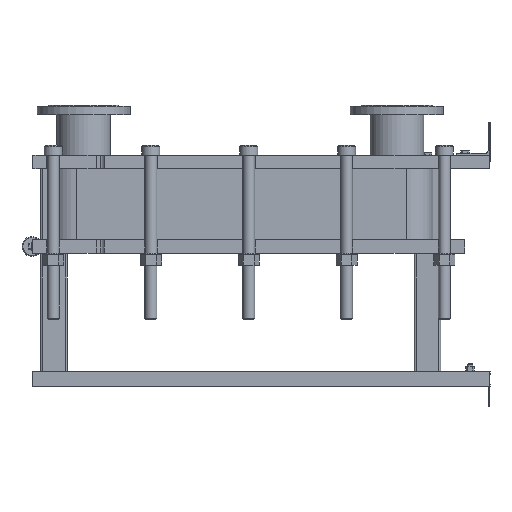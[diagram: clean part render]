
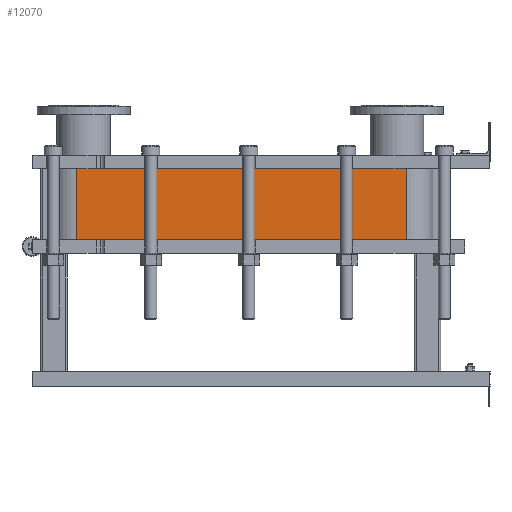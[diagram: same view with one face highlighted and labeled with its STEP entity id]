
A CAD part, left-side view. The second image highlights one B-rep face of the part: STEP entity #12070.
In plain terms, the highlighted planar face has unit normal (-1, 0, 0).
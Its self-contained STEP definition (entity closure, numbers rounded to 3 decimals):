
#1064=LINE('',#21140,#2164);
#1065=LINE('',#21144,#2165);
#1066=LINE('',#21146,#2166);
#1067=LINE('',#21147,#2167);
#2164=VECTOR('',#15790,10.);
#2165=VECTOR('',#15795,10.);
#2166=VECTOR('',#15796,10.);
#2167=VECTOR('',#15797,10.);
#3304=FACE_OUTER_BOUND('',#4091,.T.);
#4091=EDGE_LOOP('',(#9793,#9794,#9795,#9796));
#5677=VERTEX_POINT('',#21137);
#5678=VERTEX_POINT('',#21139);
#5679=VERTEX_POINT('',#21143);
#5680=VERTEX_POINT('',#21145);
#7118=EDGE_CURVE('',#5678,#5677,#1064,.T.);
#7120=EDGE_CURVE('',#5677,#5679,#1065,.T.);
#7121=EDGE_CURVE('',#5680,#5679,#1066,.T.);
#7122=EDGE_CURVE('',#5680,#5678,#1067,.T.);
#9793=ORIENTED_EDGE('',*,*,#7120,.T.);
#9794=ORIENTED_EDGE('',*,*,#7121,.F.);
#9795=ORIENTED_EDGE('',*,*,#7122,.T.);
#9796=ORIENTED_EDGE('',*,*,#7118,.T.);
#11441=PLANE('',#13191);
#12070=ADVANCED_FACE('',(#3304),#11441,.T.);
#13191=AXIS2_PLACEMENT_3D('',#21142,#15793,#15794);
#15790=DIRECTION('',(0.,0.,-1.));
#15793=DIRECTION('center_axis',(-1.,0.,0.));
#15794=DIRECTION('ref_axis',(0.,1.,0.));
#15795=DIRECTION('',(0.,-1.,0.));
#15796=DIRECTION('',(0.,0.,-1.));
#15797=DIRECTION('',(0.,1.,0.));
#21137=CARTESIAN_POINT('',(-248.152,1243.818,-213.9));
#21139=CARTESIAN_POINT('',(-248.152,1243.818,0.));
#21140=CARTESIAN_POINT('',(-248.152,1243.818,0.));
#21142=CARTESIAN_POINT('Origin',(-248.152,251.818,0.));
#21143=CARTESIAN_POINT('',(-248.152,251.818,-213.9));
#21144=CARTESIAN_POINT('',(-248.152,499.818,-213.9));
#21145=CARTESIAN_POINT('',(-248.152,251.818,0.));
#21146=CARTESIAN_POINT('',(-248.152,251.818,0.));
#21147=CARTESIAN_POINT('',(-248.152,251.818,0.));
